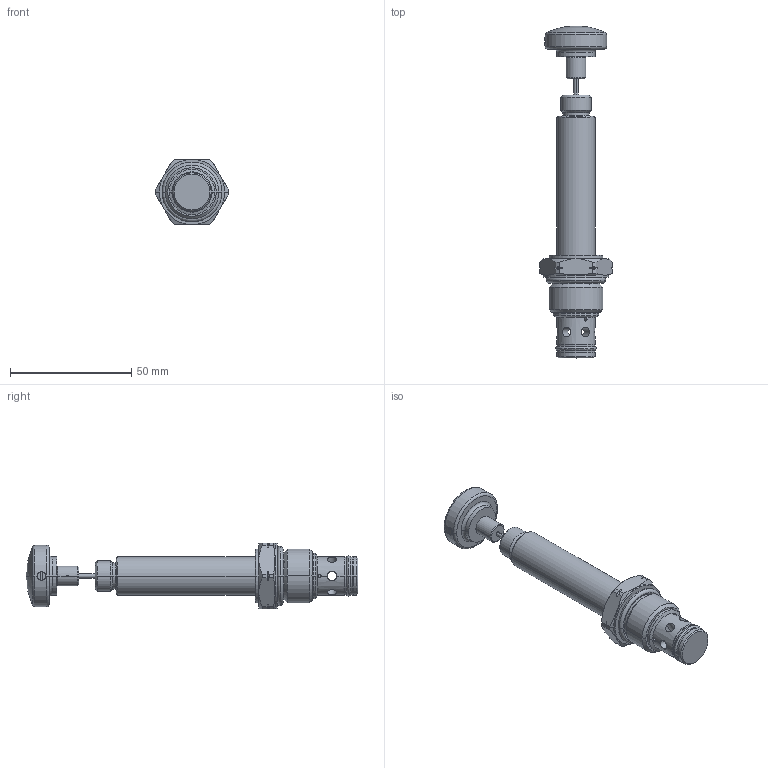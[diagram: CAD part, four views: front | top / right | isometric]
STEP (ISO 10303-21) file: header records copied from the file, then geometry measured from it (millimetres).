
FILE_DESCRIPTION((''),'2;1');
FILE_NAME('HSV10-23K','2019-04-01T11:20:46',('MG1'),(''),'CREO PARAMETRIC BY PTC INC, 2018020','CREO PARAMETRIC BY PTC INC, 2018020','');
FILE_SCHEMA(('CONFIG_CONTROL_DESIGN'));
Length unit declared in the file: inch
Products named in the file (1): HSV10-23K
Bounding box: 30.23 x 136.75 x 26.92 mm (x, y, z)
Volume: 31715.9 mm3; surface area: 10839.5 mm2
Topology: 3 solids, 3 shells, 201 faces, 463 edges, 267 vertices
Faces by surface type: cylinder 84, cone 50, plane 31, torus 18, revolution 16, sphere 2
Entity records: 7424 total; most frequent: CARTESIAN_POINT 2921, DIRECTION 939, ORIENTED_EDGE 918, EDGE_CURVE 459, AXIS2_PLACEMENT_3D 392, VERTEX_POINT 267, EDGE_LOOP 222, CIRCLE 206
